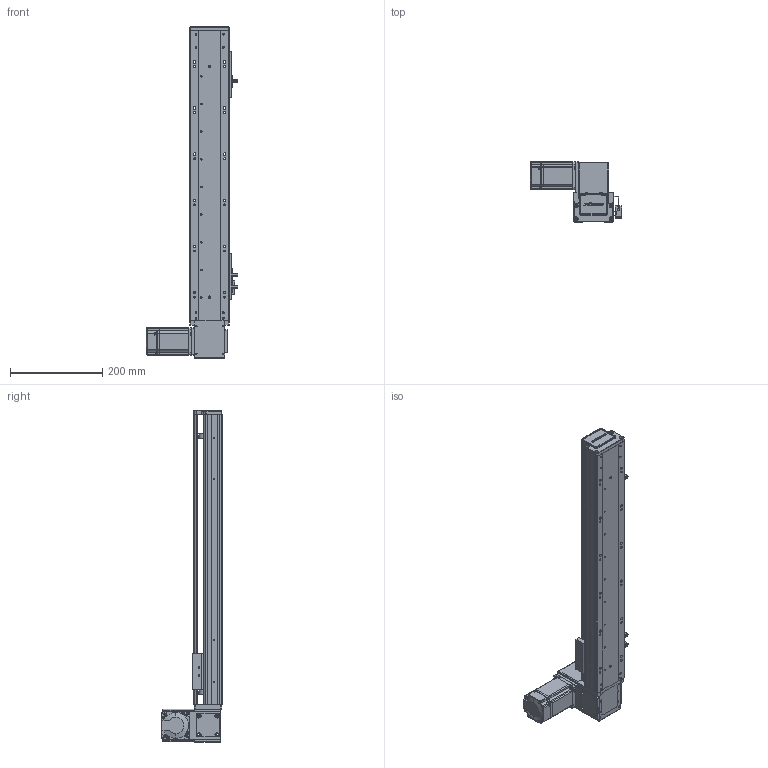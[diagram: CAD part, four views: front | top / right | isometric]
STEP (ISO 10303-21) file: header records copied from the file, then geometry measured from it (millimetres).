
FILE_DESCRIPTION (( 'STEP AP203' ), '1' );
FILE_NAME ('RY80-T-300-UL.SLDASM_450.step', '2021-03-01T02:16:25', ( '盈信电脑' ), ( '东莞市道滘镇水果街19号' ), 'SwSTEP 2.0', 'SolidWorks 2012', '' );
FILE_SCHEMA (( 'CONFIG_CONTROL_DESIGN' ));
Length unit declared in the file: millimetre
Products named in the file (19): RY80-T-300-UL.SLDASM_450; RY80-T-上下折同步轮盖板; RY80-T肮祭謫奻殏俋欶; RY80-T-M4蹟翐2; 1; RY80-T翋肮祭謫裔啣; RY80-T肮祭湍揤輸2; RY80-T萇儂假蚾啣; RY80-T粣創揤踡輸; 滅袉蝶18-10; RY80-T肮祭湍揤輸1; RY80-T-翋肮祭謫釱; RY80俋离覜茼え; 覜茼ん672; 672嫖萇羲壽假蚾釱; RY80-T綴裔啣; RY80-T-300-UL倰第奻裔啣_450; RY80-T-300-UL倰第菁釱_450; RY80-T肮祭謫臏賑輸
Assembly tree (24 placements, depth 2):
  RY80-T-300-UL.SLDASM_450
    RY80-T-300-UL倰第菁釱_450
    RY80-T肮祭謫臏賑輸
    RY80-T-300-UL倰第奻裔啣_450
    RY80-T綴裔啣
    672嫖萇羲壽假蚾釱  x2
    覜茼ん672  x3
    RY80俋离覜茼え
    RY80-T-翋肮祭謫釱
    RY80-T肮祭湍揤輸1
    RY80-T肮祭湍揤輸2
    RY80-T萇儂假蚾啣
    RY80-T粣創揤踡輸  x2
    滅袉蝶18-10  x2
    RY80-T翋肮祭謫裔啣
    1
    RY80-T肮祭謫奻殏俋欶
    RY80-T-M4蹟翐2  x2
    RY80-T-上下折同步轮盖板
Bounding box: 198.7 x 130.5 x 720 mm (x, y, z)
Volume: 1480438.9 mm3; surface area: 597526.4 mm2
Topology: 24 solids, 24 shells, 2455 faces, 6738 edges, 4373 vertices
Faces by surface type: plane 1338, cylinder 913, cone 148, bspline 56
Entity records: 76077 total; most frequent: CARTESIAN_POINT 18176, ORIENTED_EDGE 11860, DIRECTION 11190, EDGE_CURVE 5930, VERTEX_POINT 3894, AXIS2_PLACEMENT_3D 3740, VECTOR 3710, LINE 3710
